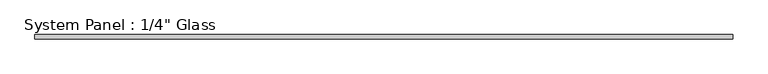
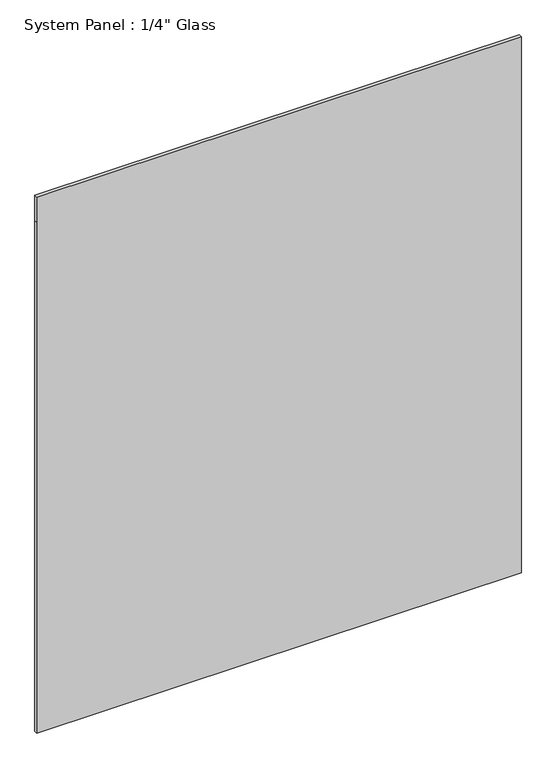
"""IFC4 building model written with IfcOpenShell, lengths in millimetres: plate geometry."""

import ifcopenshell
import ifcopenshell.guid

model = None  # the IFC model being written
_history = None  # IfcOwnerHistory: only IFC2X3 demands one
_inside = {}  # id of a spatial element -> (the spatial element, [elements in it])
_under = {}  # id of a project, library or spatial element -> (it, [spatial elements below it])
_declared = {}  # id of a project -> (the project, [libraries it declares])
_typed = {}  # id of a type object -> (the type object, [elements of that type])
_made_of = {}  # id of a material, layer set ... -> (it, [elements and type objects made of it])


def new_model(schema):
    """Start an empty IFC model of exactly this schema.

    Asked for "IFC4X3", IfcOpenShell would pick the latest addendum, in which some entities
    have other attributes; the version numbers below select the first issue.
    IFC2X3 requires an IfcOwnerHistory on every rooted entity: one is made here for all.
    """
    global model, _history
    if schema == "IFC4X3":
        model = ifcopenshell.file(schema_version=(4, 3, 0, 0))
    else:
        model = ifcopenshell.file(schema=schema)
    _inside.clear()
    _under.clear()
    _declared.clear()
    _typed.clear()
    _made_of.clear()
    _history = None
    if model.schema == "IFC2X3":
        org = make("IfcOrganization", Name="unknown")
        user = make(
            "IfcPersonAndOrganization",
            ThePerson=make("IfcPerson", FamilyName="unknown"),
            TheOrganization=org,
        )
        app = make(
            "IfcApplication",
            ApplicationDeveloper=org,
            Version="unknown",
            ApplicationFullName="unknown",
            ApplicationIdentifier="unknown",
        )
        _history = make(
            "IfcOwnerHistory",
            OwningUser=user,
            OwningApplication=app,
            ChangeAction="ADDED",
            CreationDate=0,
        )
    return model


def make(cls, **values):
    """One entity of the class cls with the attributes given. An attribute that is None is left unset."""
    return model.create_entity(
        cls, **{name: value for name, value in values.items() if value is not None}
    )


def rooted(cls, **values):
    """An entity with a GlobalId (a new one), such as an element, a storey or a relation."""
    return make(cls, GlobalId=ifcopenshell.guid.new(), OwnerHistory=_history, **values)


def si_unit(unit_type, name, prefix=None):
    """IfcSIUnit, for example si_unit("LENGTHUNIT", "METRE", prefix="MILLI")."""
    return make("IfcSIUnit", UnitType=unit_type, Prefix=prefix, Name=name)


def assignment(units):
    """IfcUnitAssignment: the units of a project."""
    return None if units is None else make("IfcUnitAssignment", Units=units)


def point(xyz):
    """IfcCartesianPoint."""
    return None if xyz is None else make("IfcCartesianPoint", Coordinates=xyz)


def direction(xyz):
    """IfcDirection."""
    return None if xyz is None else make("IfcDirection", DirectionRatios=xyz)


def frame(location, z_axis=None, x_axis=None):
    """IfcAxis2Placement3D, a coordinate frame: its origin and axes. An axis left out is left unset."""
    return make(
        "IfcAxis2Placement3D",
        Location=point(location),
        Axis=direction(z_axis),
        RefDirection=direction(x_axis),
    )


def origin():
    """The frame at (0, 0, 0) with its axes left unset."""
    return frame((0.0, 0.0, 0.0))


def place(relative_to, where):
    """IfcLocalPlacement: puts the frame where relative to a parent placement (None: the world)."""
    return make(
        "IfcLocalPlacement", PlacementRelTo=relative_to, RelativePlacement=where
    )


def context(
    kind, dimensions, precision=None, world=None, true_north=None, identifier=None
):
    """IfcGeometricRepresentationContext, for example the 3D "Model" context."""
    return make(
        "IfcGeometricRepresentationContext",
        ContextIdentifier=identifier,
        ContextType=kind,
        CoordinateSpaceDimension=dimensions,
        Precision=precision,
        WorldCoordinateSystem=world,
        TrueNorth=true_north,
    )


def project(units=None, contexts=None):
    """IfcProject with its units and contexts."""
    return rooted(
        "IfcProject",
        Name="project",
        RepresentationContexts=contexts,
        UnitsInContext=assignment(units),
    )


def spatial(cls, under=None, at=None, **own):
    """A site, building, storey or space (cls), placed at a placement, below another one or the project."""
    s = rooted(cls, ObjectPlacement=at, **own)
    if under is not None:
        _under.setdefault(under.id(), (under, []))[1].append(s)
    return s


def polyline(points):
    """IfcPolyline through the points."""
    return make("IfcPolyline", Points=[point(p) for p in points])


def outline(outer, holes=None, kind="AREA"):
    """IfcArbitraryClosedProfileDef: a profile drawn as a closed curve; with holes, ...WithVoids."""
    if holes is None:
        return make("IfcArbitraryClosedProfileDef", ProfileType=kind, OuterCurve=outer)
    return make(
        "IfcArbitraryProfileDefWithVoids",
        ProfileType=kind,
        OuterCurve=outer,
        InnerCurves=holes,
    )


def extrude(swept, where, along, depth):
    """IfcExtrudedAreaSolid: the profile swept, set in the frame where, extruded along a direction by depth."""
    return make(
        "IfcExtrudedAreaSolid",
        SweptArea=swept,
        Position=where,
        ExtrudedDirection=direction(along),
        Depth=depth,
    )


def shape(context_of_items, identifier, shape_type, items):
    """IfcShapeRepresentation: the items that make up one representation, for example the "Body"."""
    return make(
        "IfcShapeRepresentation",
        ContextOfItems=context_of_items,
        RepresentationIdentifier=identifier,
        RepresentationType=shape_type,
        Items=items,
    )


def source(mapping_origin, context_of_items, identifier, shape_type, items):
    """IfcRepresentationMap: a shape defined once, which mapped items show again and again."""
    return make(
        "IfcRepresentationMap",
        MappingOrigin=mapping_origin,
        MappedRepresentation=shape(context_of_items, identifier, shape_type, items),
    )


def transform(
    local_origin,
    x_axis=None,
    y_axis=None,
    z_axis=None,
    scale=None,
    scale2=None,
    scale3=None,
    uniform=True,
):
    """IfcCartesianTransformationOperator3D, or its non-uniform kind. x_axis, y_axis, z_axis: its Axis1, 2, 3."""
    if uniform:
        return make(
            "IfcCartesianTransformationOperator3D",
            Axis1=direction(x_axis),
            Axis2=direction(y_axis),
            LocalOrigin=point(local_origin),
            Scale=scale,
            Axis3=direction(z_axis),
        )
    return make(
        "IfcCartesianTransformationOperator3DnonUniform",
        Axis1=direction(x_axis),
        Axis2=direction(y_axis),
        LocalOrigin=point(local_origin),
        Scale=scale,
        Axis3=direction(z_axis),
        Scale2=scale2,
        Scale3=scale3,
    )


def mapped(mapping_source, mapping_target):
    """IfcMappedItem: shows the shape of a source again, moved by a transform."""
    return make(
        "IfcMappedItem", MappingSource=mapping_source, MappingTarget=mapping_target
    )


def made_of(thing, what):
    """Note that an element or type object is made of a material, layer set ...; save() writes the relation."""
    if what is not None:
        _made_of.setdefault(what.id(), (what, []))[1].append(thing)
    return thing


def element(
    cls,
    number,
    at=None,
    inside=None,
    cuts=None,
    type_object=None,
    material=None,
    context=None,
    identifier="Body",
    shape_type=None,
    held_by="IfcProductDefinitionShape",
    body=None,
    shapes=None,
    **own,
):
    """One element of the class cls, such as IfcWall. Its Tag is "e" and its number.

    at: its placement. inside: the storey or other place that contains it. cuts: it is an
    opening in that element (IfcRelVoidsElement). A single representation is given by context,
    identifier, shape_type and body (its items); several are given by shapes. held_by: the class
    of the entity that holds the representations. save() writes the other relations.
    """
    e = rooted(cls, Tag="e%d" % number, ObjectPlacement=at, **own)
    if body is not None:
        shapes = [shape(context, identifier, shape_type, body)]
    if shapes is not None:
        e.Representation = make(held_by, Representations=shapes)
    if inside is not None:
        _inside.setdefault(inside.id(), (inside, []))[1].append(e)
    if cuts is not None:
        rooted(
            "IfcRelVoidsElement", RelatingBuildingElement=cuts, RelatedOpeningElement=e
        )
    if type_object is not None:
        _typed.setdefault(type_object.id(), (type_object, []))[1].append(e)
    return made_of(e, material)


def aggregate(whole, parts):
    """IfcRelAggregates: a whole, such as a stair, and the parts it consists of."""
    return rooted("IfcRelAggregates", RelatingObject=whole, RelatedObjects=parts)


def save(model, path):
    """Write the relations noted so far, then the file.

    IfcRelAggregates (storeys below a building ...), IfcRelContainedInSpatialStructure (elements
    in a storey), IfcRelDefinesByType, IfcRelAssociatesMaterial and IfcRelDeclares: one each for
    every whole, place, type object, material and project.
    """
    for whole, parts in _under.values():
        aggregate(whole, parts)
    for where, things in _inside.values():
        rooted(
            "IfcRelContainedInSpatialStructure",
            RelatedElements=things,
            RelatingStructure=where,
        )
    for kind, things in _typed.values():
        rooted("IfcRelDefinesByType", RelatedObjects=things, RelatingType=kind)
    for what, things in _made_of.values():
        rooted("IfcRelAssociatesMaterial", RelatedObjects=things, RelatingMaterial=what)
    for by, libraries in _declared.values():
        rooted("IfcRelDeclares", RelatingContext=by, RelatedDefinitions=libraries)
    model.write(path)


def plate_3ea17b85(model_context):
    return source(origin(), model_context, "Body", "SweptSolid", [
        extrude(outline(polyline([(0.0, -531.7477435), (0.0, 531.7477435), (1184.275, 531.7477435), (1242.5844027, 531.7477435), (1242.5844027, -531.7477435), (1184.275, -531.7477435), (0.0, -531.7477435)])), frame((0.0, -3.175, 0.0), z_axis=(0.0, 1.0, 0.0), x_axis=(0.0, 0.0, 1.0)), (0.0, 0.0, 1.0), 6.35),
    ])


if __name__ == "__main__":
    model = new_model("IFC4")
    model_context = context("Model", 3, world=origin())
    ifc_project = project(units=[si_unit("LENGTHUNIT", "METRE", prefix="MILLI")], contexts=[model_context])
    site = spatial("IfcSite", under=ifc_project)
    building = spatial("IfcBuilding", under=site)
    placement = place(None, origin())
    plate_shape = plate_3ea17b85(model_context)
    element("IfcPlate", 1, ObjectType="System Panel : 1/4\" Glass", at=placement, inside=building, context=model_context, shape_type="MappedRepresentation", body=[
        mapped(plate_shape, transform((0.0, 0.0, 0.0), x_axis=(1.0, 0.0, 0.0), y_axis=(0.0, 1.0, 0.0), z_axis=(0.0, 0.0, 1.0))),
    ])
    save(model, "model.ifc")
